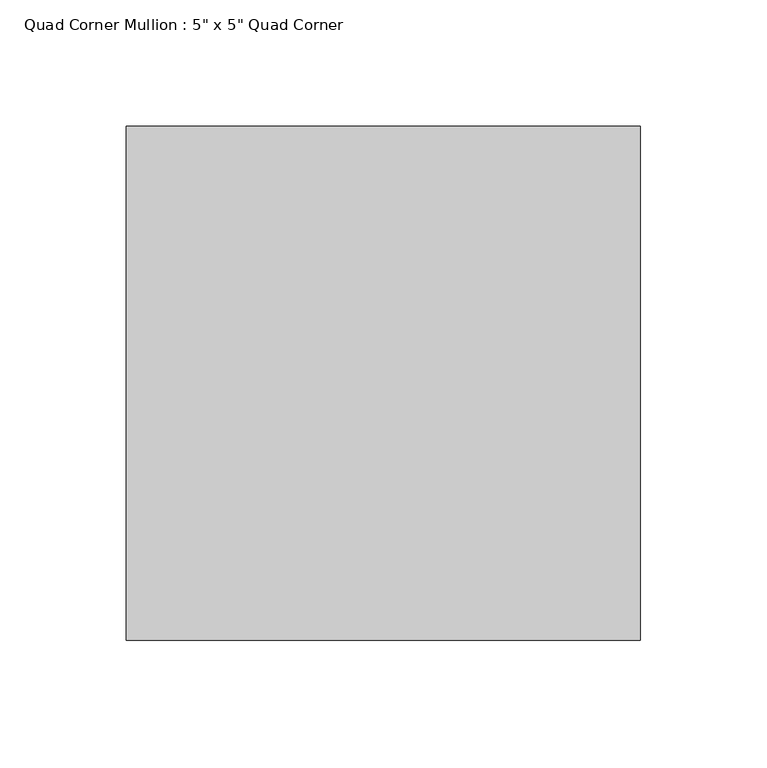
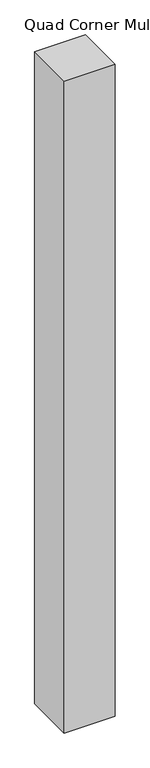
"""IFC4 building model written with IfcOpenShell, lengths in millimetres: member geometry."""

from ifc_helpers import new_model, si_unit, frame, origin, place, context, project, spatial, polyline, outline, extrude, source, transform, mapped, element, save


def member_d3c65e58(model_context):
    return source(origin(), model_context, "Body", "SweptSolid", [
        extrude(outline(polyline([(133.35, -69.85), (-69.85, -69.85), (-69.85, 133.35), (133.35, 133.35), (133.35, -69.85)])), frame((0.0, 0.0, -2743.2), z_axis=(0.0, 0.0, 1.0), x_axis=(1.0, 0.0, 0.0)), (0.0, 0.0, 1.0), 2743.2),
    ])


if __name__ == "__main__":
    model = new_model("IFC4")
    model_context = context("Model", 3, world=origin())
    ifc_project = project(units=[si_unit("LENGTHUNIT", "METRE", prefix="MILLI")], contexts=[model_context])
    site = spatial("IfcSite", under=ifc_project)
    building = spatial("IfcBuilding", under=site)
    placement = place(None, origin())
    member_shape = member_d3c65e58(model_context)
    element("IfcMember", 1, ObjectType="Quad Corner Mullion : 5\" x 5\" Quad Corner", at=placement, inside=building, context=model_context, shape_type="MappedRepresentation", body=[
        mapped(member_shape, transform((0.0, 0.0, 0.0), x_axis=(1.0, 0.0, 0.0), y_axis=(0.0, 1.0, 0.0), z_axis=(0.0, 0.0, 1.0))),
    ])
    save(model, "model.ifc")
